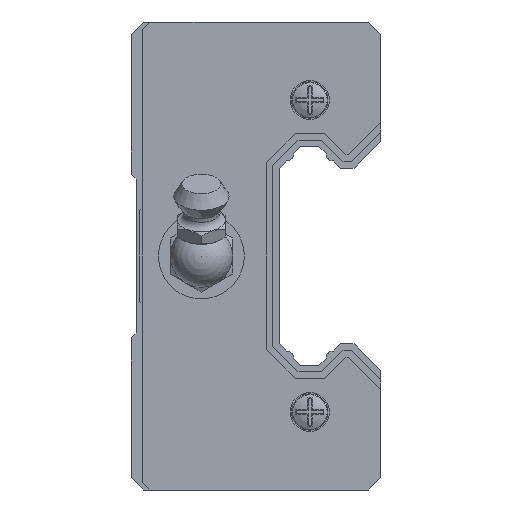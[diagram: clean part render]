
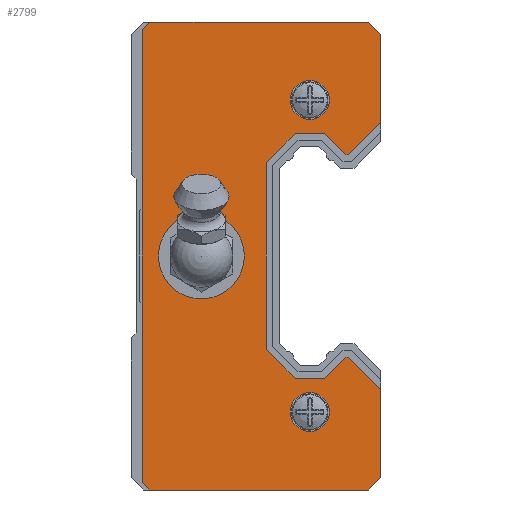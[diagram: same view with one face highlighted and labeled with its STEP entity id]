
A CAD part, left-side view. The second image highlights one B-rep face of the part: STEP entity #2799.
In plain terms, the highlighted planar face has unit normal (-1, 0, 0) as drawn and (1, 0, 0) by its records, which use the part's own axes.
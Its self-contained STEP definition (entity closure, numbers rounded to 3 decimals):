
#2781 = VERTEX_POINT('',#2782);
#2782 = CARTESIAN_POINT('',(3.,19.1,-17.5));
#2787 = EDGE_CURVE('',#2781,#2781,#2788,.T.);
#2788 = CIRCLE('',#2789,2.5);
#2789 = AXIS2_PLACEMENT_3D('',#2790,#2791,#2792);
#2790 = CARTESIAN_POINT('',(3.,19.1,-20.));
#2791 = DIRECTION('',(-1.,0.,0.));
#2792 = DIRECTION('',(0.,0.,1.));
#2799 = ADVANCED_FACE('',(#2800,#2962,#2973,#2976),#2987,.T.);
#2800 = FACE_BOUND('',#2801,.T.);
#2801 = EDGE_LOOP('',(#2802,#2812,#2820,#2828,#2836,#2844,#2852,#2860,
    #2868,#2876,#2884,#2892,#2900,#2908,#2916,#2924,#2932,#2940,#2948,
    #2956));
#2802 = ORIENTED_EDGE('',*,*,#2803,.F.);
#2803 = EDGE_CURVE('',#2804,#2806,#2808,.T.);
#2804 = VERTEX_POINT('',#2805);
#2805 = CARTESIAN_POINT('',(3.,14.126,12.95));
#2806 = VERTEX_POINT('',#2807);
#2807 = CARTESIAN_POINT('',(3.,10.,17.076));
#2808 = LINE('',#2809,#2810);
#2809 = CARTESIAN_POINT('',(3.,14.126,12.95));
#2810 = VECTOR('',#2811,1.);
#2811 = DIRECTION('',(0.,-0.707,0.707));
#2812 = ORIENTED_EDGE('',*,*,#2813,.F.);
#2813 = EDGE_CURVE('',#2814,#2804,#2816,.T.);
#2814 = VERTEX_POINT('',#2815);
#2815 = CARTESIAN_POINT('',(3.,14.504,12.95));
#2816 = LINE('',#2817,#2818);
#2817 = CARTESIAN_POINT('',(3.,14.504,12.95));
#2818 = VECTOR('',#2819,1.);
#2819 = DIRECTION('',(0.,-1.,0.));
#2820 = ORIENTED_EDGE('',*,*,#2821,.F.);
#2821 = EDGE_CURVE('',#2822,#2814,#2824,.T.);
#2822 = VERTEX_POINT('',#2823);
#2823 = CARTESIAN_POINT('',(3.,17.234,15.68));
#2824 = LINE('',#2825,#2826);
#2825 = CARTESIAN_POINT('',(3.,17.234,15.68));
#2826 = VECTOR('',#2827,1.);
#2827 = DIRECTION('',(0.,-0.707,-0.707));
#2828 = ORIENTED_EDGE('',*,*,#2829,.F.);
#2829 = EDGE_CURVE('',#2830,#2822,#2832,.T.);
#2830 = VERTEX_POINT('',#2831);
#2831 = CARTESIAN_POINT('',(3.,20.966,15.68));
#2832 = LINE('',#2833,#2834);
#2833 = CARTESIAN_POINT('',(3.,20.966,15.68));
#2834 = VECTOR('',#2835,1.);
#2835 = DIRECTION('',(0.,-1.,0.));
#2836 = ORIENTED_EDGE('',*,*,#2837,.F.);
#2837 = EDGE_CURVE('',#2838,#2830,#2840,.T.);
#2838 = VERTEX_POINT('',#2839);
#2839 = CARTESIAN_POINT('',(3.,24.68,11.966));
#2840 = LINE('',#2841,#2842);
#2841 = CARTESIAN_POINT('',(3.,24.68,11.966));
#2842 = VECTOR('',#2843,1.);
#2843 = DIRECTION('',(0.,-0.707,0.707));
#2844 = ORIENTED_EDGE('',*,*,#2845,.F.);
#2845 = EDGE_CURVE('',#2846,#2838,#2848,.T.);
#2846 = VERTEX_POINT('',#2847);
#2847 = CARTESIAN_POINT('',(3.,24.68,-11.966));
#2848 = LINE('',#2849,#2850);
#2849 = CARTESIAN_POINT('',(3.,24.68,-11.966));
#2850 = VECTOR('',#2851,1.);
#2851 = DIRECTION('',(0.,0.,1.));
#2852 = ORIENTED_EDGE('',*,*,#2853,.F.);
#2853 = EDGE_CURVE('',#2854,#2846,#2856,.T.);
#2854 = VERTEX_POINT('',#2855);
#2855 = CARTESIAN_POINT('',(3.,20.966,-15.68));
#2856 = LINE('',#2857,#2858);
#2857 = CARTESIAN_POINT('',(3.,20.966,-15.68));
#2858 = VECTOR('',#2859,1.);
#2859 = DIRECTION('',(0.,0.707,0.707));
#2860 = ORIENTED_EDGE('',*,*,#2861,.F.);
#2861 = EDGE_CURVE('',#2862,#2854,#2864,.T.);
#2862 = VERTEX_POINT('',#2863);
#2863 = CARTESIAN_POINT('',(3.,17.234,-15.68));
#2864 = LINE('',#2865,#2866);
#2865 = CARTESIAN_POINT('',(3.,17.234,-15.68));
#2866 = VECTOR('',#2867,1.);
#2867 = DIRECTION('',(0.,1.,0.));
#2868 = ORIENTED_EDGE('',*,*,#2869,.F.);
#2869 = EDGE_CURVE('',#2870,#2862,#2872,.T.);
#2870 = VERTEX_POINT('',#2871);
#2871 = CARTESIAN_POINT('',(3.,14.504,-12.95));
#2872 = LINE('',#2873,#2874);
#2873 = CARTESIAN_POINT('',(3.,14.504,-12.95));
#2874 = VECTOR('',#2875,1.);
#2875 = DIRECTION('',(0.,0.707,-0.707));
#2876 = ORIENTED_EDGE('',*,*,#2877,.F.);
#2877 = EDGE_CURVE('',#2878,#2870,#2880,.T.);
#2878 = VERTEX_POINT('',#2879);
#2879 = CARTESIAN_POINT('',(3.,14.126,-12.95));
#2880 = LINE('',#2881,#2882);
#2881 = CARTESIAN_POINT('',(3.,14.126,-12.95));
#2882 = VECTOR('',#2883,1.);
#2883 = DIRECTION('',(0.,1.,0.));
#2884 = ORIENTED_EDGE('',*,*,#2885,.F.);
#2885 = EDGE_CURVE('',#2886,#2878,#2888,.T.);
#2886 = VERTEX_POINT('',#2887);
#2887 = CARTESIAN_POINT('',(3.,10.,-17.076));
#2888 = LINE('',#2889,#2890);
#2889 = CARTESIAN_POINT('',(3.,10.,-17.076));
#2890 = VECTOR('',#2891,1.);
#2891 = DIRECTION('',(0.,0.707,0.707));
#2892 = ORIENTED_EDGE('',*,*,#2893,.T.);
#2893 = EDGE_CURVE('',#2886,#2894,#2896,.T.);
#2894 = VERTEX_POINT('',#2895);
#2895 = CARTESIAN_POINT('',(3.,10.,-28.4));
#2896 = LINE('',#2897,#2898);
#2897 = CARTESIAN_POINT('',(3.,10.,28.4));
#2898 = VECTOR('',#2899,1.);
#2899 = DIRECTION('',(0.,0.,-1.));
#2900 = ORIENTED_EDGE('',*,*,#2901,.T.);
#2901 = EDGE_CURVE('',#2894,#2902,#2904,.T.);
#2902 = VERTEX_POINT('',#2903);
#2903 = CARTESIAN_POINT('',(3.,11.6,-30.));
#2904 = LINE('',#2905,#2906);
#2905 = CARTESIAN_POINT('',(3.,10.,-28.4));
#2906 = VECTOR('',#2907,1.);
#2907 = DIRECTION('',(0.,0.707,-0.707));
#2908 = ORIENTED_EDGE('',*,*,#2909,.T.);
#2909 = EDGE_CURVE('',#2902,#2910,#2912,.T.);
#2910 = VERTEX_POINT('',#2911);
#2911 = CARTESIAN_POINT('',(3.,39.6,-30.));
#2912 = LINE('',#2913,#2914);
#2913 = CARTESIAN_POINT('',(3.,11.6,-30.));
#2914 = VECTOR('',#2915,1.);
#2915 = DIRECTION('',(0.,1.,0.));
#2916 = ORIENTED_EDGE('',*,*,#2917,.T.);
#2917 = EDGE_CURVE('',#2910,#2918,#2920,.T.);
#2918 = VERTEX_POINT('',#2919);
#2919 = CARTESIAN_POINT('',(3.,40.6,-29.));
#2920 = LINE('',#2921,#2922);
#2921 = CARTESIAN_POINT('',(3.,39.6,-30.));
#2922 = VECTOR('',#2923,1.);
#2923 = DIRECTION('',(0.,0.707,0.707));
#2924 = ORIENTED_EDGE('',*,*,#2925,.T.);
#2925 = EDGE_CURVE('',#2918,#2926,#2928,.T.);
#2926 = VERTEX_POINT('',#2927);
#2927 = CARTESIAN_POINT('',(3.,40.6,29.));
#2928 = LINE('',#2929,#2930);
#2929 = CARTESIAN_POINT('',(3.,40.6,-29.));
#2930 = VECTOR('',#2931,1.);
#2931 = DIRECTION('',(0.,0.,1.));
#2932 = ORIENTED_EDGE('',*,*,#2933,.T.);
#2933 = EDGE_CURVE('',#2926,#2934,#2936,.T.);
#2934 = VERTEX_POINT('',#2935);
#2935 = CARTESIAN_POINT('',(3.,39.6,30.));
#2936 = LINE('',#2937,#2938);
#2937 = CARTESIAN_POINT('',(3.,40.6,29.));
#2938 = VECTOR('',#2939,1.);
#2939 = DIRECTION('',(0.,-0.707,0.707));
#2940 = ORIENTED_EDGE('',*,*,#2941,.T.);
#2941 = EDGE_CURVE('',#2934,#2942,#2944,.T.);
#2942 = VERTEX_POINT('',#2943);
#2943 = CARTESIAN_POINT('',(3.,11.6,30.));
#2944 = LINE('',#2945,#2946);
#2945 = CARTESIAN_POINT('',(3.,39.6,30.));
#2946 = VECTOR('',#2947,1.);
#2947 = DIRECTION('',(0.,-1.,0.));
#2948 = ORIENTED_EDGE('',*,*,#2949,.T.);
#2949 = EDGE_CURVE('',#2942,#2950,#2952,.T.);
#2950 = VERTEX_POINT('',#2951);
#2951 = CARTESIAN_POINT('',(3.,10.,28.4));
#2952 = LINE('',#2953,#2954);
#2953 = CARTESIAN_POINT('',(3.,11.6,30.));
#2954 = VECTOR('',#2955,1.);
#2955 = DIRECTION('',(0.,-0.707,-0.707));
#2956 = ORIENTED_EDGE('',*,*,#2957,.T.);
#2957 = EDGE_CURVE('',#2950,#2806,#2958,.T.);
#2958 = LINE('',#2959,#2960);
#2959 = CARTESIAN_POINT('',(3.,10.,28.4));
#2960 = VECTOR('',#2961,1.);
#2961 = DIRECTION('',(0.,0.,-1.));
#2962 = FACE_BOUND('',#2963,.T.);
#2963 = EDGE_LOOP('',(#2964));
#2964 = ORIENTED_EDGE('',*,*,#2965,.T.);
#2965 = EDGE_CURVE('',#2966,#2966,#2968,.T.);
#2966 = VERTEX_POINT('',#2967);
#2967 = CARTESIAN_POINT('',(3.,19.1,22.5));
#2968 = CIRCLE('',#2969,2.5);
#2969 = AXIS2_PLACEMENT_3D('',#2970,#2971,#2972);
#2970 = CARTESIAN_POINT('',(3.,19.1,20.));
#2971 = DIRECTION('',(-1.,0.,0.));
#2972 = DIRECTION('',(0.,0.,1.));
#2973 = FACE_BOUND('',#2974,.T.);
#2974 = EDGE_LOOP('',(#2975));
#2975 = ORIENTED_EDGE('',*,*,#2787,.T.);
#2976 = FACE_BOUND('',#2977,.T.);
#2977 = EDGE_LOOP('',(#2978));
#2978 = ORIENTED_EDGE('',*,*,#2979,.F.);
#2979 = EDGE_CURVE('',#2980,#2980,#2982,.T.);
#2980 = VERTEX_POINT('',#2981);
#2981 = CARTESIAN_POINT('',(3.,33.,-5.5));
#2982 = CIRCLE('',#2983,5.5);
#2983 = AXIS2_PLACEMENT_3D('',#2984,#2985,#2986);
#2984 = CARTESIAN_POINT('',(3.,33.,0.));
#2985 = DIRECTION('',(1.,0.,0.));
#2986 = DIRECTION('',(0.,0.,-1.));
#2987 = PLANE('',#2988);
#2988 = AXIS2_PLACEMENT_3D('',#2989,#2990,#2991);
#2989 = CARTESIAN_POINT('',(3.,0.,0.));
#2990 = DIRECTION('',(1.,0.,0.));
#2991 = DIRECTION('',(0.,0.,1.));
